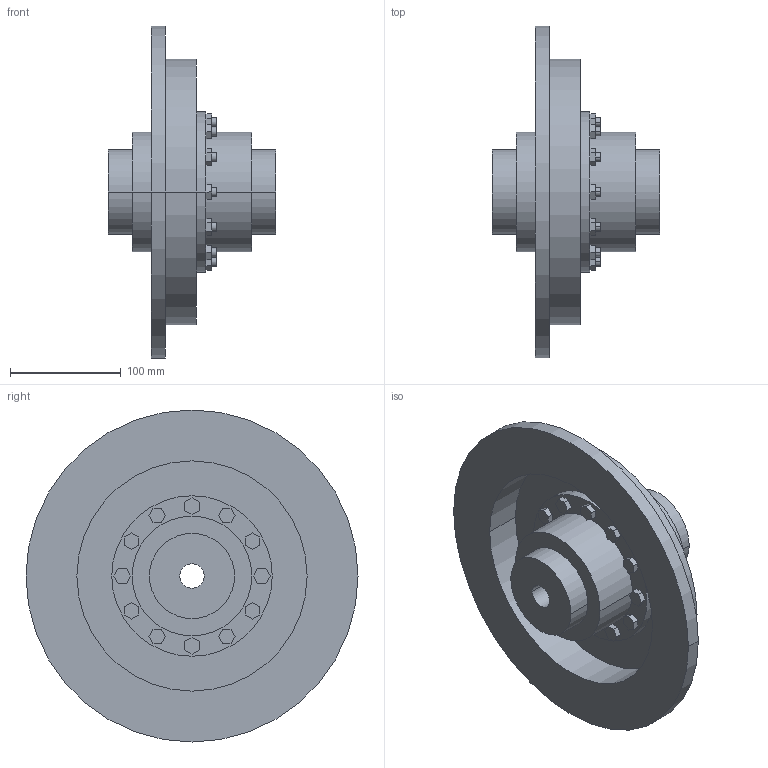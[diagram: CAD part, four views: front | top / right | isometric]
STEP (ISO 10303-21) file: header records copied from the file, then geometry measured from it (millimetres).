
FILE_DESCRIPTION((''),'2;1');
FILE_NAME('A19125800-0_ASM','2018-11-13T',('AB_Roschiwal'),('RENK AG'),'PRO/ENGINEER BY PARAMETRIC TECHNOLOGY CORPORATION, 2015440','PRO/ENGINEER BY PARAMETRIC TECHNOLOGY CORPORATION, 2015440','');
FILE_SCHEMA(('CONFIG_CONTROL_DESIGN'));
Length unit declared in the file: millimetre
Products named in the file (4): LBKT48_GEHAEUSE; LBKT48_NABE; LBKT48_BREMSSCHEIBE; A19125800-0_ASM
Assembly tree (4 placements, depth 2):
  A19125800-0_ASM
    LBKT48_GEHAEUSE
    LBKT48_NABE  x2
    LBKT48_BREMSSCHEIBE
Bounding box: 151 x 300 x 300 mm (x, y, z)
Volume: 2095628.1 mm3; surface area: 376563.2 mm2
Topology: 4 solids, 4 shells, 294 faces, 708 edges, 472 vertices
Faces by surface type: plane 202, cylinder 92
Entity records: 8412 total; most frequent: DIRECTION 1432, CARTESIAN_POINT 1430, ORIENTED_EDGE 1368, EDGE_CURVE 684, VECTOR 516, LINE 516, AXIS2_PLACEMENT_3D 458, VERTEX_POINT 456
